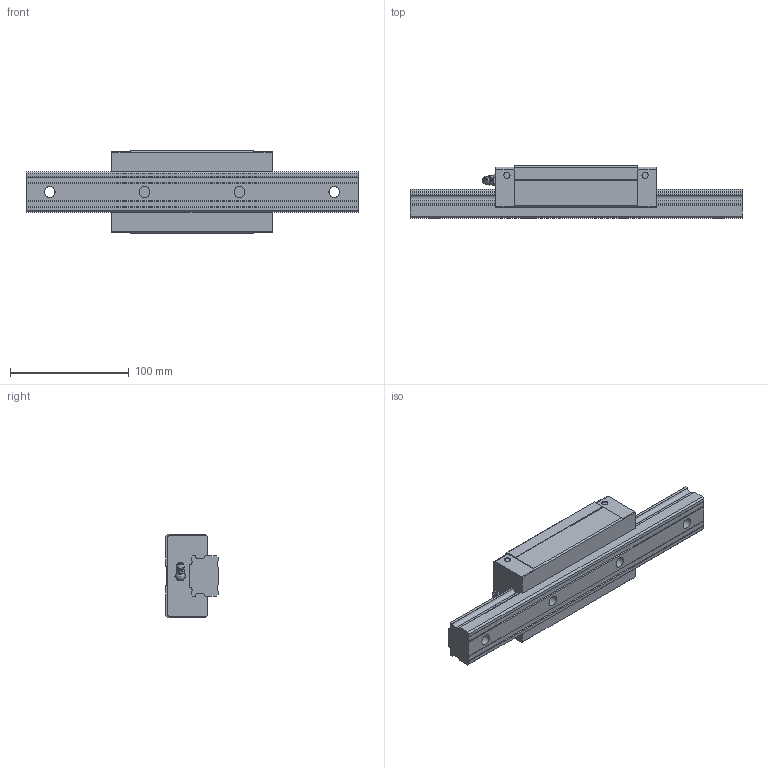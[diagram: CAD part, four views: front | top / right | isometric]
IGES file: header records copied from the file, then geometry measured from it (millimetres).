
Start section: Data from Parasolid IGES Translator 26.0.171, Copyright(c) 2006 Siemens PLM Software. All Rights Reserved.
Global section: file name: SVR35LR1SS-280L_G20_0_B-M6F_72-5_0_0_0_1.igs; native system: By Siemens PLM Incorporated; preprocessor: XPlus GENERIC/IGES 26.0.171; author: Noname; organization: Noname; date: 20240517.070728; units: millimetre
Bounding box: 280 x 44 x 70 mm (x, y, z)
Surface area: 76786.1 mm2 (no closed solid volume)
Topology: 0 solids, 0 shells, 191 faces, 1028 edges, 986 vertices
Faces by surface type: extrusion 100, revolution 91
